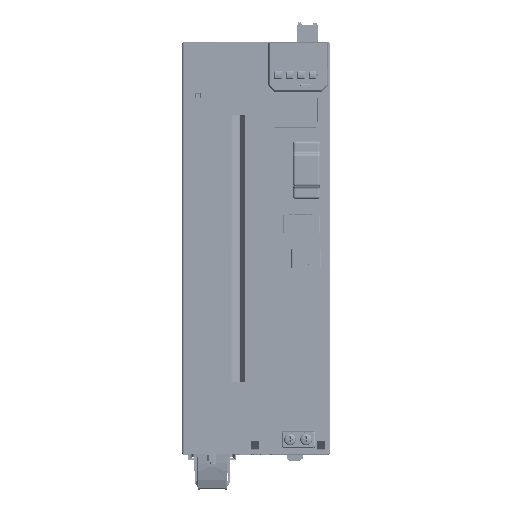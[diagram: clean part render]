
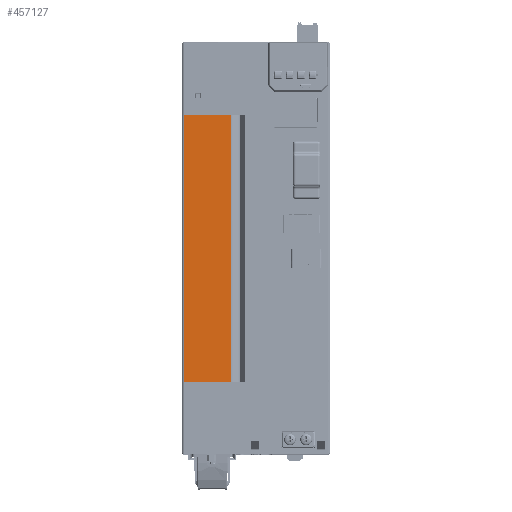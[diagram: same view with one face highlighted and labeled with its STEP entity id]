
A CAD part, top view. The second image highlights one B-rep face of the part: STEP entity #457127.
In plain terms, the highlighted planar face has unit normal (0, 0, 1).
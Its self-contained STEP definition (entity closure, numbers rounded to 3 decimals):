
#136301=CARTESIAN_POINT('',(-40.531,80.8,0.));
#138700=DIRECTION('',(0.,-1.,0.));
#138701=VECTOR('',#138700,161.6);
#138702=CARTESIAN_POINT('',(-69.396,80.8,0.));
#138703=LINE('',#138702,#138701);
#138704=CARTESIAN_POINT('',(-69.396,-80.8,0.));
#138709=DIRECTION('',(1.,0.,0.));
#138710=VECTOR('',#138709,28.865);
#138711=CARTESIAN_POINT('',(-69.396,80.8,0.));
#138712=LINE('',#138711,#138710);
#138713=DIRECTION('',(-1.,0.,0.));
#138714=VECTOR('',#138713,28.865);
#138715=CARTESIAN_POINT('',(-40.531,-80.8,0.));
#138716=LINE('',#138715,#138714);
#138721=DIRECTION('',(0.,1.,0.));
#138722=VECTOR('',#138721,161.6);
#138723=CARTESIAN_POINT('',(-40.531,-80.8,0.));
#138724=LINE('',#138723,#138722);
#173622=VERTEX_POINT('',#136301);
#173623=CARTESIAN_POINT('',(-69.396,80.8,0.));
#173624=VERTEX_POINT('',#173623);
#174178=VERTEX_POINT('',#138704);
#174179=CARTESIAN_POINT('',(-40.531,-80.8,0.));
#174180=VERTEX_POINT('',#174179);
#457115=CARTESIAN_POINT('',(-54.964,0.,0.));
#457116=DIRECTION('',(0.,0.,1.));
#457117=DIRECTION('',(1.,0.,0.));
#457118=AXIS2_PLACEMENT_3D('',#457115,#457116,#457117);
#457119=PLANE('',#457118);
#457120=ORIENTED_EDGE('',*,*,#457102,.F.);
#457121=ORIENTED_EDGE('',*,*,#452761,.T.);
#457123=ORIENTED_EDGE('',*,*,#457122,.F.);
#457124=ORIENTED_EDGE('',*,*,#454871,.T.);
#457125=EDGE_LOOP('',(#457120,#457121,#457123,#457124));
#457126=FACE_OUTER_BOUND('',#457125,.F.);
#452761=EDGE_CURVE('',#173624,#173622,#138712,.T.);
#454871=EDGE_CURVE('',#174180,#174178,#138716,.T.);
#457102=EDGE_CURVE('',#173624,#174178,#138703,.T.);
#457122=EDGE_CURVE('',#174180,#173622,#138724,.T.);
#457127=ADVANCED_FACE('',(#457126),#457119,.T.);
